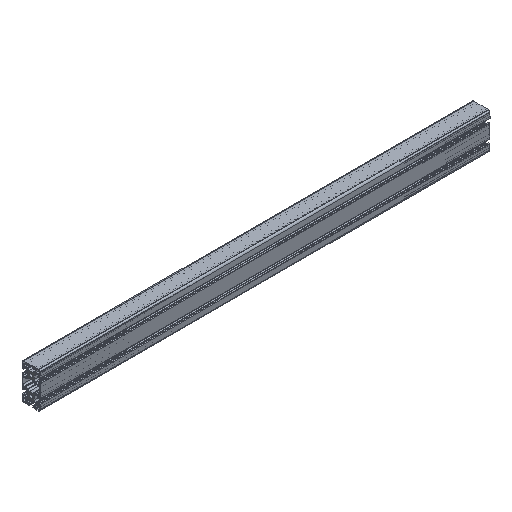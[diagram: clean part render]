
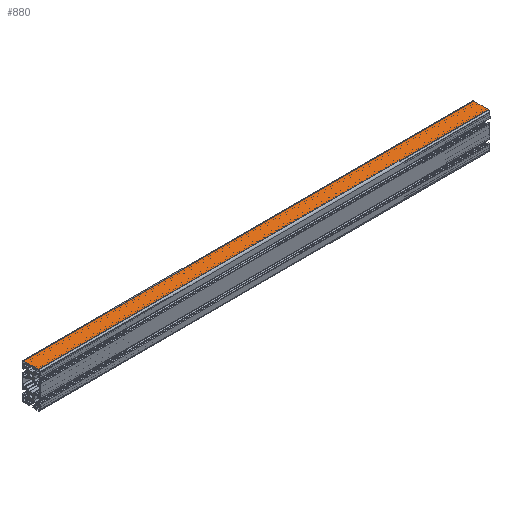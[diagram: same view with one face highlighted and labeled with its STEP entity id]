
A CAD part, isometric view. The second image highlights one B-rep face of the part: STEP entity #880.
In plain terms, the highlighted planar face has unit normal (0, 0, 1).
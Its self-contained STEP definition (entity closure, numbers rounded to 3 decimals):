
#558 = ORIENTED_EDGE ( 'NONE', *, *, #5031, .T. ) ;
#732 = DIRECTION ( 'NONE',  ( 0., 1., 0. ) ) ;
#880 = ADVANCED_FACE ( 'NONE', ( #3097 ), #1305, .F. ) ;
#1305 = PLANE ( 'NONE',  #7879 ) ;
#1347 = VERTEX_POINT ( 'NONE', #5758 ) ;
#1469 = CARTESIAN_POINT ( 'NONE',  ( 1000., 16., 40.146 ) ) ;
#1712 = EDGE_CURVE ( 'NONE', #1347, #3489, #4163, .T. ) ;
#2405 = VERTEX_POINT ( 'NONE', #3875 ) ;
#2639 = DIRECTION ( 'NONE',  ( -1., 0., 0. ) ) ;
#2817 = CARTESIAN_POINT ( 'NONE',  ( 1000., 16., 40.146 ) ) ;
#3097 = FACE_OUTER_BOUND ( 'NONE', #3366, .T. ) ;
#3366 = EDGE_LOOP ( 'NONE', ( #7666, #4296, #4961, #558 ) ) ;
#3412 = CARTESIAN_POINT ( 'NONE',  ( 1000., 16., 40.146 ) ) ;
#3489 = VERTEX_POINT ( 'NONE', #7519 ) ;
#3759 = VERTEX_POINT ( 'NONE', #3412 ) ;
#3780 = CARTESIAN_POINT ( 'NONE',  ( 0., 16., 40.146 ) ) ;
#3875 = CARTESIAN_POINT ( 'NONE',  ( 0., 16., 40.146 ) ) ;
#3882 = LINE ( 'NONE', #2817, #6958 ) ;
#3930 = LINE ( 'NONE', #1469, #5355 ) ;
#3964 = VECTOR ( 'NONE', #4475, 1000. ) ;
#4163 = LINE ( 'NONE', #5704, #3964 ) ;
#4296 = ORIENTED_EDGE ( 'NONE', *, *, #1712, .F. ) ;
#4475 = DIRECTION ( 'NONE',  ( -1., 0., 0. ) ) ;
#4665 = DIRECTION ( 'NONE',  ( 0., -1., 0. ) ) ;
#4836 = LINE ( 'NONE', #3780, #7536 ) ;
#4961 = ORIENTED_EDGE ( 'NONE', *, *, #7383, .F. ) ;
#5031 = EDGE_CURVE ( 'NONE', #3759, #2405, #3930, .T. ) ;
#5355 = VECTOR ( 'NONE', #2639, 1000. ) ;
#5640 = DIRECTION ( 'NONE',  ( 0., -1., 0. ) ) ;
#5676 = CARTESIAN_POINT ( 'NONE',  ( 1000., 16., 40.146 ) ) ;
#5704 = CARTESIAN_POINT ( 'NONE',  ( 1000., -16., 40.146 ) ) ;
#5758 = CARTESIAN_POINT ( 'NONE',  ( 1000., -16., 40.146 ) ) ;
#6352 = DIRECTION ( 'NONE',  ( 0., 0., -1. ) ) ;
#6958 = VECTOR ( 'NONE', #4665, 1000. ) ;
#7383 = EDGE_CURVE ( 'NONE', #3759, #1347, #3882, .T. ) ;
#7519 = CARTESIAN_POINT ( 'NONE',  ( 0., -16., 40.146 ) ) ;
#7536 = VECTOR ( 'NONE', #5640, 1000. ) ;
#7666 = ORIENTED_EDGE ( 'NONE', *, *, #7692, .T. ) ;
#7692 = EDGE_CURVE ( 'NONE', #2405, #3489, #4836, .T. ) ;
#7879 = AXIS2_PLACEMENT_3D ( 'NONE', #5676, #6352, #732 ) ;
